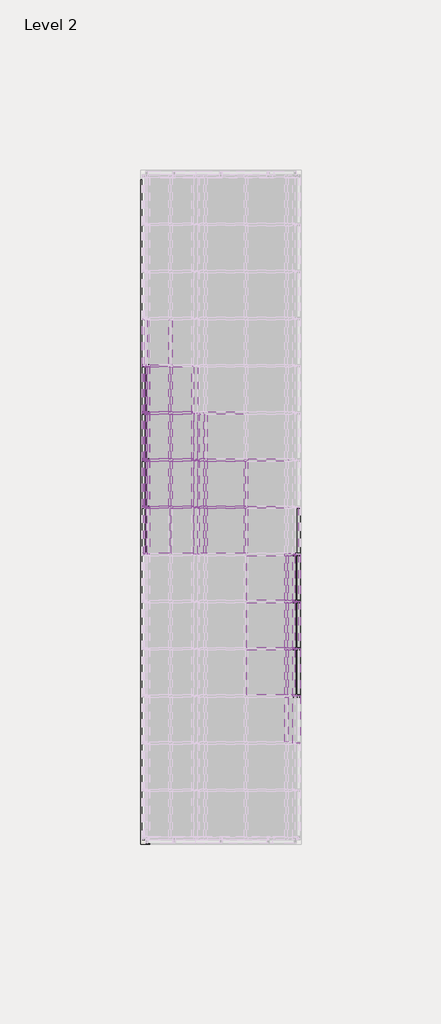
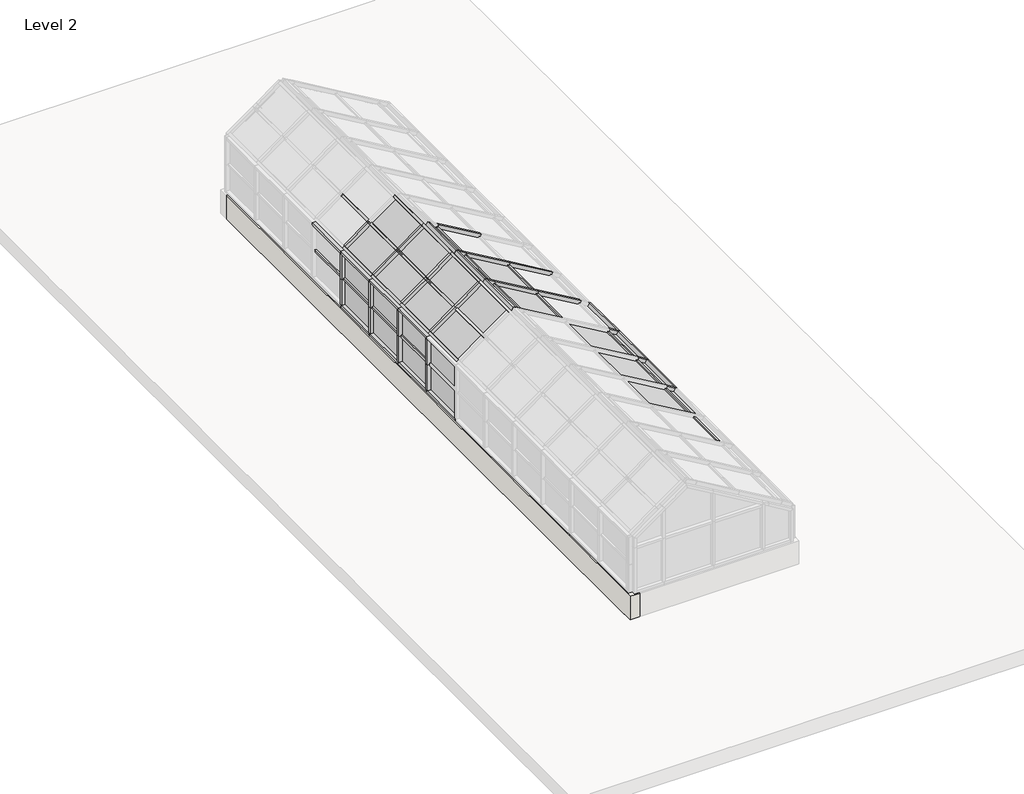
# One storey, part 3 of 5: 75 members, 30 plates, 1 wall.
"""IFC4 building model written with IfcOpenShell, lengths in millimetres."""

from ifc_helpers import new_model, si_unit, origin, place, context, project, spatial, faceted_brep, transform, mapped, element, save
from components import rectangular_mullion_50mm_x_150mm_bbc1c4ea, rectangular_mullion_50mm_x_150mm_eeb88b28, rectangular_mullion_50mm_x_150mm_a3f7cd42, rectangular_mullion_50mm_x_150mm_b93c35cb, rectangular_mullion_50mm_x_150mm_5b0837ce, rectangular_mullion_50mm_x_150mm_ae680e05, rectangular_mullion_50mm_x_65mm_31c1307f, system_panel_glazed_870feb4d, system_panel_glazed_ce9ce1f6, system_panel_glazed_b73f3a15, system_panel_glazed_e5572be6, system_panel_glazed_8ed7f146

model = new_model("IFC4")

# Units and contexts
model_context = context("Model", 3, world=origin())
ifc_project = project(units=[si_unit("LENGTHUNIT", "METRE", prefix="MILLI")], contexts=[model_context])

# Site, building, storey
site = spatial("IfcSite", under=ifc_project)
building = spatial("IfcBuilding", under=site)
storey = spatial("IfcBuildingStorey", under=building, Name="Level 2", Elevation=4000.0)

# Members
placement = place(None, origin())
rectangular_mullion_50mm_x_150mm_shape = rectangular_mullion_50mm_x_150mm_bbc1c4ea(model_context)
element("IfcMember", 1, ObjectType="Rectangular Mullion : 50mm x 150mm", at=placement, inside=storey, context=model_context, shape_type="MappedRepresentation", body=[
    mapped(rectangular_mullion_50mm_x_150mm_shape, transform((2564.0558626, 583.816466, 6633.2209294), x_axis=(0.0, -1.0, 0.0), y_axis=(0.5073040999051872, 0.0, 0.8617671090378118), z_axis=(-0.8617671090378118, 0.0, 0.5073040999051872))),
])
element("IfcMember", 2, ObjectType="Rectangular Mullion : 50mm x 150mm", at=placement, inside=storey, context=model_context, shape_type="MappedRepresentation", body=[
    mapped(rectangular_mullion_50mm_x_150mm_shape, transform((3425.8229716, 583.816466, 6125.9168295), x_axis=(0.0, -1.0, 0.0), y_axis=(0.507304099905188, 0.0, 0.8617671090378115), z_axis=(-0.8617671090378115, 0.0, 0.507304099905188))),
])
element("IfcMember", 3, ObjectType="Rectangular Mullion : 50mm x 150mm", at=placement, inside=storey, context=model_context, shape_type="MappedRepresentation", body=[
    mapped(rectangular_mullion_50mm_x_150mm_shape, transform((2564.0558626, 1583.816466, 6633.2209294), x_axis=(0.0, -1.0, 0.0), y_axis=(0.507304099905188, 0.0, 0.8617671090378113), z_axis=(-0.8617671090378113, 0.0, 0.507304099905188))),
])
element("IfcMember", 4, ObjectType="Rectangular Mullion : 50mm x 150mm", at=placement, inside=storey, context=model_context, shape_type="MappedRepresentation", body=[
    mapped(rectangular_mullion_50mm_x_150mm_shape, transform((3425.8229716, 1583.816466, 6125.9168295), x_axis=(0.0, -1.0, 0.0), y_axis=(0.5073040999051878, 0.0, 0.8617671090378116), z_axis=(-0.8617671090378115, 0.0, 0.5073040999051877))),
])
element("IfcMember", 5, ObjectType="Rectangular Mullion : 50mm x 150mm", at=placement, inside=storey, context=model_context, shape_type="MappedRepresentation", body=[
    mapped(rectangular_mullion_50mm_x_150mm_shape, transform((2564.0558626, 2583.816466, 6633.2209294), x_axis=(0.0, -1.0, 0.0), y_axis=(0.5073040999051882, 0.0, 0.8617671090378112), z_axis=(-0.8617671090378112, 0.0, 0.5073040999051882))),
])
rectangular_mullion_50mm_x_150mm_2_shape = rectangular_mullion_50mm_x_150mm_eeb88b28(model_context)
element("IfcMember", 6, ObjectType="Rectangular Mullion : 50mm x 150mm", at=placement, inside=storey, context=model_context, shape_type="MappedRepresentation", body=[
    mapped(rectangular_mullion_50mm_x_150mm_2_shape, transform((1296.0159363, 1583.816466, 5995.9168295), x_axis=(-0.8125956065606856, 0.0, -0.5828279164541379), y_axis=(-0.5828279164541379, 0.0, 0.8125956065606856), z_axis=(0.0, 1.0, 0.0))),
])
element("IfcMember", 7, ObjectType="Rectangular Mullion : 50mm x 150mm", at=placement, inside=storey, context=model_context, shape_type="MappedRepresentation", body=[
    mapped(rectangular_mullion_50mm_x_150mm_2_shape, transform((1296.0159363, 583.816466, 5995.9168295), x_axis=(-0.8125956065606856, 0.0, -0.5828279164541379), y_axis=(-0.5828279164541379, 0.0, 0.8125956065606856), z_axis=(0.0, 1.0, 0.0))),
])
element("IfcMember", 8, ObjectType="Rectangular Mullion : 50mm x 150mm", at=placement, inside=storey, context=model_context, shape_type="MappedRepresentation", body=[
    mapped(rectangular_mullion_50mm_x_150mm_2_shape, transform((1296.0159363, 3583.816466, 5995.9168295), x_axis=(-0.8125956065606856, 0.0, -0.5828279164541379), y_axis=(-0.5828279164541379, 0.0, 0.8125956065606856), z_axis=(0.0, 1.0, 0.0))),
])
element("IfcMember", 9, ObjectType="Rectangular Mullion : 50mm x 150mm", at=placement, inside=storey, context=model_context, shape_type="MappedRepresentation", body=[
    mapped(rectangular_mullion_50mm_x_150mm_2_shape, transform((1296.0159363, 2583.816466, 5995.9168295), x_axis=(-0.8125956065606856, 0.0, -0.5828279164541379), y_axis=(-0.5828279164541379, 0.0, 0.8125956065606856), z_axis=(0.0, 1.0, 0.0))),
])
element("IfcMember", 10, ObjectType="Rectangular Mullion : 50mm x 150mm", at=placement, inside=storey, context=model_context, shape_type="MappedRepresentation", body=[
    mapped(rectangular_mullion_50mm_x_150mm_2_shape, transform((1296.0159363, 2583.816466, 4800.0), x_axis=(0.0, 0.0, -1.0), y_axis=(-1.0, 0.0, 0.0), z_axis=(0.0, 1.0, 0.0))),
])
element("IfcMember", 11, ObjectType="Rectangular Mullion : 50mm x 150mm", at=placement, inside=storey, context=model_context, shape_type="MappedRepresentation", body=[
    mapped(rectangular_mullion_50mm_x_150mm_2_shape, transform((1296.0159363, 3583.816466, 4800.0), x_axis=(0.0, 0.0, -1.0), y_axis=(-1.0, 0.0, 0.0), z_axis=(0.0, 1.0, 0.0))),
])
element("IfcMember", 12, ObjectType="Rectangular Mullion : 50mm x 150mm", at=placement, inside=storey, context=model_context, shape_type="MappedRepresentation", body=[
    mapped(rectangular_mullion_50mm_x_150mm_2_shape, transform((1296.0159363, 583.816466, 4800.0), x_axis=(0.0, 0.0, -1.0), y_axis=(-1.0, 0.0, 0.0), z_axis=(0.0, 1.0, 0.0))),
])
element("IfcMember", 13, ObjectType="Rectangular Mullion : 50mm x 150mm", at=placement, inside=storey, context=model_context, shape_type="MappedRepresentation", body=[
    mapped(rectangular_mullion_50mm_x_150mm_2_shape, transform((1296.0159363, 1583.816466, 4800.0), x_axis=(0.0, 0.0, -1.0), y_axis=(-1.0, 0.0, 0.0), z_axis=(0.0, 1.0, 0.0))),
])
element("IfcMember", 14, ObjectType="Rectangular Mullion : 50mm x 150mm", at=placement, inside=storey, context=model_context, shape_type="MappedRepresentation", body=[
    mapped(rectangular_mullion_50mm_x_150mm_2_shape, transform((4496.0159363, -2416.183534, 5495.9168295), x_axis=(0.8617671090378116, 0.0, -0.5073040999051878), y_axis=(0.5073040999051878, 0.0, 0.8617671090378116), z_axis=(0.0, -1.0, 0.0))),
])
element("IfcMember", 15, ObjectType="Rectangular Mullion : 50mm x 150mm", at=placement, inside=storey, context=model_context, shape_type="MappedRepresentation", body=[
    mapped(rectangular_mullion_50mm_x_150mm_2_shape, transform((4496.0159363, -1416.183534, 5495.9168295), x_axis=(0.8617671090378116, 0.0, -0.5073040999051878), y_axis=(0.5073040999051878, 0.0, 0.8617671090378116), z_axis=(0.0, -1.0, 0.0))),
])
element("IfcMember", 16, ObjectType="Rectangular Mullion : 50mm x 150mm", at=placement, inside=storey, context=model_context, shape_type="MappedRepresentation", body=[
    mapped(rectangular_mullion_50mm_x_150mm_2_shape, transform((4496.0159363, -416.183534, 5495.9168295), x_axis=(0.8617671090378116, 0.0, -0.5073040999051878), y_axis=(0.5073040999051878, 0.0, 0.8617671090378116), z_axis=(0.0, -1.0, 0.0))),
])
element("IfcMember", 17, ObjectType="Rectangular Mullion : 50mm x 150mm", at=placement, inside=storey, context=model_context, shape_type="MappedRepresentation", body=[
    mapped(rectangular_mullion_50mm_x_150mm_2_shape, transform((4496.0159363, -2416.183534, 4800.0), x_axis=(0.0, 0.0, -1.0), y_axis=(1.0, 0.0, 0.0), z_axis=(0.0, -1.0, 0.0))),
])
element("IfcMember", 18, ObjectType="Rectangular Mullion : 50mm x 150mm", at=placement, inside=storey, context=model_context, shape_type="MappedRepresentation", body=[
    mapped(rectangular_mullion_50mm_x_150mm_2_shape, transform((4496.0159363, -3416.183534, 4800.0), x_axis=(0.0, 0.0, -1.0), y_axis=(1.0, 0.0, 0.0), z_axis=(0.0, -1.0, 0.0))),
])
element("IfcMember", 19, ObjectType="Rectangular Mullion : 50mm x 150mm", at=placement, inside=storey, context=model_context, shape_type="MappedRepresentation", body=[
    mapped(rectangular_mullion_50mm_x_150mm_2_shape, transform((4496.0159363, -1416.183534, 4800.0), x_axis=(0.0, 0.0, -1.0), y_axis=(1.0, 0.0, 0.0), z_axis=(0.0, -1.0, 0.0))),
])
element("IfcMember", 20, ObjectType="Rectangular Mullion : 50mm x 150mm", at=placement, inside=storey, context=model_context, shape_type="MappedRepresentation", body=[
    mapped(rectangular_mullion_50mm_x_150mm_2_shape, transform((4496.0159363, -416.183534, 4800.0), x_axis=(0.0, 0.0, -1.0), y_axis=(1.0, 0.0, 0.0), z_axis=(0.0, -1.0, 0.0))),
])
element("IfcMember", 21, ObjectType="Rectangular Mullion : 50mm x 150mm", at=placement, inside=storey, context=model_context, shape_type="MappedRepresentation", body=[
    mapped(rectangular_mullion_50mm_x_150mm_2_shape, transform((2355.6300069, 2583.816466, 6755.9168295), x_axis=(0.8125956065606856, 0.0, 0.5828279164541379), y_axis=(-0.5828279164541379, 0.0, 0.8125956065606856), z_axis=(0.0, -1.0, 0.0))),
])
element("IfcMember", 22, ObjectType="Rectangular Mullion : 50mm x 150mm", at=placement, inside=storey, context=model_context, shape_type="MappedRepresentation", body=[
    mapped(rectangular_mullion_50mm_x_150mm_2_shape, transform((2355.6300069, 1583.816466, 6755.9168295), x_axis=(0.8125956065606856, 0.0, 0.5828279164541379), y_axis=(-0.5828279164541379, 0.0, 0.8125956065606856), z_axis=(0.0, -1.0, 0.0))),
])
element("IfcMember", 23, ObjectType="Rectangular Mullion : 50mm x 150mm", at=placement, inside=storey, context=model_context, shape_type="MappedRepresentation", body=[
    mapped(rectangular_mullion_50mm_x_150mm_2_shape, transform((2355.6300069, 583.816466, 6755.9168295), x_axis=(0.8125956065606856, 0.0, 0.5828279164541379), y_axis=(-0.5828279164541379, 0.0, 0.8125956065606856), z_axis=(0.0, -1.0, 0.0))),
])
element("IfcMember", 24, ObjectType="Rectangular Mullion : 50mm x 150mm", at=placement, inside=storey, context=model_context, shape_type="MappedRepresentation", body=[
    mapped(rectangular_mullion_50mm_x_150mm_2_shape, transform((1296.0159363, 583.816466, 5995.9168295), x_axis=(0.0, 0.0, 1.0), y_axis=(-1.0, 0.0, 0.0), z_axis=(0.0, -1.0, 0.0))),
])
element("IfcMember", 25, ObjectType="Rectangular Mullion : 50mm x 150mm", at=placement, inside=storey, context=model_context, shape_type="MappedRepresentation", body=[
    mapped(rectangular_mullion_50mm_x_150mm_2_shape, transform((1296.0159363, 2583.816466, 5995.9168295), x_axis=(0.0, 0.0, 1.0), y_axis=(-1.0, 0.0, 0.0), z_axis=(0.0, -1.0, 0.0))),
])
element("IfcMember", 26, ObjectType="Rectangular Mullion : 50mm x 150mm", at=placement, inside=storey, context=model_context, shape_type="MappedRepresentation", body=[
    mapped(rectangular_mullion_50mm_x_150mm_2_shape, transform((1296.0159363, 1583.816466, 5995.9168295), x_axis=(0.0, 0.0, 1.0), y_axis=(-1.0, 0.0, 0.0), z_axis=(0.0, -1.0, 0.0))),
])
element("IfcMember", 27, ObjectType="Rectangular Mullion : 50mm x 150mm", at=placement, inside=storey, context=model_context, shape_type="MappedRepresentation", body=[
    mapped(rectangular_mullion_50mm_x_150mm_2_shape, transform((1296.0159363, 3583.816466, 5995.9168295), x_axis=(0.0, 0.0, 1.0), y_axis=(-1.0, 0.0, 0.0), z_axis=(0.0, -1.0, 0.0))),
])
element("IfcMember", 28, ObjectType="Rectangular Mullion : 50mm x 150mm", at=placement, inside=storey, context=model_context, shape_type="MappedRepresentation", body=[
    mapped(rectangular_mullion_50mm_x_150mm_2_shape, transform((2355.6300069, 2583.816466, 6755.9168295), x_axis=(-0.8617671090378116, 0.0, 0.5073040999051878), y_axis=(0.5073040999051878, 0.0, 0.8617671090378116), z_axis=(0.0, 1.0, 0.0))),
])
element("IfcMember", 29, ObjectType="Rectangular Mullion : 50mm x 150mm", at=placement, inside=storey, context=model_context, shape_type="MappedRepresentation", body=[
    mapped(rectangular_mullion_50mm_x_150mm_2_shape, transform((2355.6300069, 1583.816466, 6755.9168295), x_axis=(-0.8617671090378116, 0.0, 0.5073040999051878), y_axis=(0.5073040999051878, 0.0, 0.8617671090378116), z_axis=(0.0, 1.0, 0.0))),
])
element("IfcMember", 30, ObjectType="Rectangular Mullion : 50mm x 150mm", at=placement, inside=storey, context=model_context, shape_type="MappedRepresentation", body=[
    mapped(rectangular_mullion_50mm_x_150mm_2_shape, transform((2355.6300069, 583.816466, 6755.9168295), x_axis=(-0.8617671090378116, 0.0, 0.5073040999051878), y_axis=(0.5073040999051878, 0.0, 0.8617671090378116), z_axis=(0.0, 1.0, 0.0))),
])
element("IfcMember", 31, ObjectType="Rectangular Mullion : 50mm x 150mm", at=placement, inside=storey, context=model_context, shape_type="MappedRepresentation", body=[
    mapped(rectangular_mullion_50mm_x_150mm_2_shape, transform((4496.0159363, -416.183534, 5495.9168295), x_axis=(0.0, 0.0, 1.0), y_axis=(1.0, 0.0, 0.0), z_axis=(0.0, 1.0, 0.0))),
])
element("IfcMember", 32, ObjectType="Rectangular Mullion : 50mm x 150mm", at=placement, inside=storey, context=model_context, shape_type="MappedRepresentation", body=[
    mapped(rectangular_mullion_50mm_x_150mm_2_shape, transform((4496.0159363, -3416.183534, 5495.9168295), x_axis=(0.0, 0.0, 1.0), y_axis=(1.0, 0.0, 0.0), z_axis=(0.0, 1.0, 0.0))),
])
element("IfcMember", 33, ObjectType="Rectangular Mullion : 50mm x 150mm", at=placement, inside=storey, context=model_context, shape_type="MappedRepresentation", body=[
    mapped(rectangular_mullion_50mm_x_150mm_2_shape, transform((4496.0159363, -2416.183534, 5495.9168295), x_axis=(0.0, 0.0, 1.0), y_axis=(1.0, 0.0, 0.0), z_axis=(0.0, 1.0, 0.0))),
])
element("IfcMember", 34, ObjectType="Rectangular Mullion : 50mm x 150mm", at=placement, inside=storey, context=model_context, shape_type="MappedRepresentation", body=[
    mapped(rectangular_mullion_50mm_x_150mm_2_shape, transform((4496.0159363, -1416.183534, 5495.9168295), x_axis=(0.0, 0.0, 1.0), y_axis=(1.0, 0.0, 0.0), z_axis=(0.0, 1.0, 0.0))),
])
rectangular_mullion_50mm_x_150mm_3_shape = rectangular_mullion_50mm_x_150mm_a3f7cd42(model_context)
element("IfcMember", 35, ObjectType="Rectangular Mullion : 50mm x 150mm", at=placement, inside=storey, context=model_context, shape_type="MappedRepresentation", body=[
    mapped(rectangular_mullion_50mm_x_150mm_3_shape, transform((2315.0002265, 2583.816466, 6726.7754337), x_axis=(0.0, 1.0, 0.0), y_axis=(-0.5828279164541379, 0.0, 0.8125956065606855), z_axis=(0.8125956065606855, 0.0, 0.5828279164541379))),
])
element("IfcMember", 36, ObjectType="Rectangular Mullion : 50mm x 150mm", at=placement, inside=storey, context=model_context, shape_type="MappedRepresentation", body=[
    mapped(rectangular_mullion_50mm_x_150mm_3_shape, transform((2315.0002265, 1583.816466, 6726.7754337), x_axis=(0.0, 1.0, 0.0), y_axis=(-0.582827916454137, 0.0, 0.8125956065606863), z_axis=(0.8125956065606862, 0.0, 0.5828279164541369))),
])
element("IfcMember", 37, ObjectType="Rectangular Mullion : 50mm x 150mm", at=placement, inside=storey, context=model_context, shape_type="MappedRepresentation", body=[
    mapped(rectangular_mullion_50mm_x_150mm_3_shape, transform((2315.0002265, 583.816466, 6726.7754337), x_axis=(0.0, 1.0, 0.0), y_axis=(-0.5828279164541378, 0.0, 0.8125956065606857), z_axis=(0.8125956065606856, 0.0, 0.5828279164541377))),
])
element("IfcMember", 38, ObjectType="Rectangular Mullion : 50mm x 150mm", at=placement, inside=storey, context=model_context, shape_type="MappedRepresentation", body=[
    mapped(rectangular_mullion_50mm_x_150mm_3_shape, transform((1825.8229716, 3583.816466, 6375.9168295), x_axis=(0.0, 1.0, 0.0), y_axis=(-0.5828279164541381, 0.0, 0.8125956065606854), z_axis=(0.8125956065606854, 0.0, 0.5828279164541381))),
])
element("IfcMember", 39, ObjectType="Rectangular Mullion : 50mm x 150mm", at=placement, inside=storey, context=model_context, shape_type="MappedRepresentation", body=[
    mapped(rectangular_mullion_50mm_x_150mm_3_shape, transform((1825.8229716, 2583.816466, 6375.9168295), x_axis=(0.0, 1.0, 0.0), y_axis=(-0.582827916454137, 0.0, 0.8125956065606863), z_axis=(0.8125956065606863, 0.0, 0.582827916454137))),
])
element("IfcMember", 40, ObjectType="Rectangular Mullion : 50mm x 150mm", at=placement, inside=storey, context=model_context, shape_type="MappedRepresentation", body=[
    mapped(rectangular_mullion_50mm_x_150mm_3_shape, transform((1825.8229716, 1583.816466, 6375.9168295), x_axis=(0.0, 1.0, 0.0), y_axis=(-0.5828279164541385, 0.0, 0.8125956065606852), z_axis=(0.8125956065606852, 0.0, 0.5828279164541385))),
])
element("IfcMember", 41, ObjectType="Rectangular Mullion : 50mm x 150mm", at=placement, inside=storey, context=model_context, shape_type="MappedRepresentation", body=[
    mapped(rectangular_mullion_50mm_x_150mm_3_shape, transform((1825.8229716, 583.816466, 6375.9168295), x_axis=(0.0, 1.0, 0.0), y_axis=(-0.5828279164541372, 0.0, 0.8125956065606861), z_axis=(0.8125956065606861, 0.0, 0.5828279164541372))),
])
rectangular_mullion_50mm_x_150mm_4_shape = rectangular_mullion_50mm_x_150mm_b93c35cb(model_context)
element("IfcMember", 42, ObjectType="Rectangular Mullion : 50mm x 150mm", at=placement, inside=storey, context=model_context, shape_type="MappedRepresentation", body=[
    mapped(rectangular_mullion_50mm_x_150mm_4_shape, transform((1296.0159363, 3583.816466, 5397.9584148), x_axis=(0.0, 1.0, 0.0), y_axis=(-1.0, 0.0, 0.0), z_axis=(0.0, 0.0, 1.0))),
])
element("IfcMember", 43, ObjectType="Rectangular Mullion : 50mm x 150mm", at=placement, inside=storey, context=model_context, shape_type="MappedRepresentation", body=[
    mapped(rectangular_mullion_50mm_x_150mm_4_shape, transform((1296.0159363, 2583.816466, 5397.9584148), x_axis=(0.0, 1.0, 0.0), y_axis=(-1.0, 0.0, 0.0), z_axis=(0.0, 0.0, 1.0))),
])
element("IfcMember", 44, ObjectType="Rectangular Mullion : 50mm x 150mm", at=placement, inside=storey, context=model_context, shape_type="MappedRepresentation", body=[
    mapped(rectangular_mullion_50mm_x_150mm_4_shape, transform((1296.0159363, 1583.816466, 5397.9584148), x_axis=(0.0, 1.0, 0.0), y_axis=(-1.0, 0.0, 0.0), z_axis=(0.0, 0.0, 1.0))),
])
element("IfcMember", 45, ObjectType="Rectangular Mullion : 50mm x 150mm", at=placement, inside=storey, context=model_context, shape_type="MappedRepresentation", body=[
    mapped(rectangular_mullion_50mm_x_150mm_4_shape, transform((1296.0159363, 583.816466, 5397.9584148), x_axis=(0.0, 1.0, 0.0), y_axis=(-1.0, 0.0, 0.0), z_axis=(0.0, 0.0, 1.0))),
])
element("IfcMember", 46, ObjectType="Rectangular Mullion : 50mm x 150mm", at=placement, inside=storey, context=model_context, shape_type="MappedRepresentation", body=[
    mapped(rectangular_mullion_50mm_x_150mm_4_shape, transform((1296.0159363, 2583.816466, 5945.9168295), x_axis=(0.0, 1.0, 0.0), y_axis=(-1.0, 0.0, 0.0), z_axis=(0.0, 0.0, 1.0))),
])
element("IfcMember", 47, ObjectType="Rectangular Mullion : 50mm x 150mm", at=placement, inside=storey, context=model_context, shape_type="MappedRepresentation", body=[
    mapped(rectangular_mullion_50mm_x_150mm_4_shape, transform((1296.0159363, 1583.816466, 5945.9168295), x_axis=(0.0, 1.0, 0.0), y_axis=(-1.0, 0.0, 0.0), z_axis=(0.0, 0.0, 1.0))),
])
element("IfcMember", 48, ObjectType="Rectangular Mullion : 50mm x 150mm", at=placement, inside=storey, context=model_context, shape_type="MappedRepresentation", body=[
    mapped(rectangular_mullion_50mm_x_150mm_4_shape, transform((1296.0159363, 583.816466, 5945.9168295), x_axis=(0.0, 1.0, 0.0), y_axis=(-1.0, 0.0, 0.0), z_axis=(0.0, 0.0, 1.0))),
])
element("IfcMember", 49, ObjectType="Rectangular Mullion : 50mm x 150mm", at=placement, inside=storey, context=model_context, shape_type="MappedRepresentation", body=[
    mapped(rectangular_mullion_50mm_x_150mm_4_shape, transform((1296.0159363, 3583.816466, 5945.9168295), x_axis=(0.0, 1.0, 0.0), y_axis=(-1.0, 0.0, 0.0), z_axis=(0.0, 0.0, 1.0))),
])
rectangular_mullion_50mm_x_150mm_5_shape = rectangular_mullion_50mm_x_150mm_5b0837ce(model_context)
element("IfcMember", 50, ObjectType="Rectangular Mullion : 50mm x 150mm", at=placement, inside=storey, context=model_context, shape_type="MappedRepresentation", body=[
    mapped(rectangular_mullion_50mm_x_150mm_5_shape, transform((2398.7183623, 583.816466, 6730.5516245), x_axis=(0.0, -1.0, 0.0), y_axis=(0.5073040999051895, 0.0, 0.8617671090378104), z_axis=(-0.8617671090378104, 0.0, 0.5073040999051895))),
])
element("IfcMember", 51, ObjectType="Rectangular Mullion : 50mm x 150mm", at=placement, inside=storey, context=model_context, shape_type="MappedRepresentation", body=[
    mapped(rectangular_mullion_50mm_x_150mm_5_shape, transform((2398.7183623, 1583.816466, 6730.5516245), x_axis=(0.0, -1.0, 0.0), y_axis=(0.5073040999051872, 0.0, 0.8617671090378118), z_axis=(-0.8617671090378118, 0.0, 0.5073040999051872))),
])
element("IfcMember", 52, ObjectType="Rectangular Mullion : 50mm x 150mm", at=placement, inside=storey, context=model_context, shape_type="MappedRepresentation", body=[
    mapped(rectangular_mullion_50mm_x_150mm_5_shape, transform((4287.5900806, -2416.183534, 5618.6127296), x_axis=(0.0, -1.0, 0.0), y_axis=(0.5073040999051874, 0.0, 0.8617671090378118), z_axis=(-0.8617671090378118, 0.0, 0.5073040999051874))),
])
element("IfcMember", 53, ObjectType="Rectangular Mullion : 50mm x 150mm", at=placement, inside=storey, context=model_context, shape_type="MappedRepresentation", body=[
    mapped(rectangular_mullion_50mm_x_150mm_5_shape, transform((4287.5900806, -1416.183534, 5618.6127296), x_axis=(0.0, -1.0, 0.0), y_axis=(0.5073040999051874, 0.0, 0.8617671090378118), z_axis=(-0.8617671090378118, 0.0, 0.5073040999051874))),
])
element("IfcMember", 54, ObjectType="Rectangular Mullion : 50mm x 150mm", at=placement, inside=storey, context=model_context, shape_type="MappedRepresentation", body=[
    mapped(rectangular_mullion_50mm_x_150mm_5_shape, transform((4287.5900806, -416.183534, 5618.6127296), x_axis=(0.0, -1.0, 0.0), y_axis=(0.5073040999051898, 0.0, 0.8617671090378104), z_axis=(-0.8617671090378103, 0.0, 0.5073040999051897))),
])
rectangular_mullion_50mm_x_150mm_6_shape = rectangular_mullion_50mm_x_150mm_ae680e05(model_context)
element("IfcMember", 55, ObjectType="Rectangular Mullion : 50mm x 150mm", at=placement, inside=storey, context=model_context, shape_type="MappedRepresentation", body=[
    mapped(rectangular_mullion_50mm_x_150mm_6_shape, transform((4496.0159363, -3416.183534, 5445.9168295), x_axis=(0.0, -1.0, 0.0), y_axis=(1.0, 0.0, 0.0), z_axis=(0.0, 0.0, 1.0))),
])
element("IfcMember", 56, ObjectType="Rectangular Mullion : 50mm x 150mm", at=placement, inside=storey, context=model_context, shape_type="MappedRepresentation", body=[
    mapped(rectangular_mullion_50mm_x_150mm_6_shape, transform((4496.0159363, -2416.183534, 5445.9168295), x_axis=(0.0, -1.0, 0.0), y_axis=(1.0, 0.0, 0.0), z_axis=(0.0, 0.0, 1.0))),
])
element("IfcMember", 57, ObjectType="Rectangular Mullion : 50mm x 150mm", at=placement, inside=storey, context=model_context, shape_type="MappedRepresentation", body=[
    mapped(rectangular_mullion_50mm_x_150mm_6_shape, transform((4496.0159363, -1416.183534, 5445.9168295), x_axis=(0.0, -1.0, 0.0), y_axis=(1.0, 0.0, 0.0), z_axis=(0.0, 0.0, 1.0))),
])
element("IfcMember", 58, ObjectType="Rectangular Mullion : 50mm x 150mm", at=placement, inside=storey, context=model_context, shape_type="MappedRepresentation", body=[
    mapped(rectangular_mullion_50mm_x_150mm_6_shape, transform((4496.0159363, -416.183534, 5445.9168295), x_axis=(0.0, -1.0, 0.0), y_axis=(1.0, 0.0, 0.0), z_axis=(0.0, 0.0, 1.0))),
])
rectangular_mullion_50mm_x_65mm_shape = rectangular_mullion_50mm_x_65mm_31c1307f(model_context)
element("IfcMember", 59, ObjectType="Rectangular Mullion : 50mm x 65mm", at=placement, inside=storey, context=model_context, shape_type="MappedRepresentation", body=[
    mapped(rectangular_mullion_50mm_x_65mm_shape, transform((1825.8229716, 608.816466, 6375.9168295), x_axis=(0.8125956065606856, 0.0, 0.5828279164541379), y_axis=(-0.5828279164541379, 0.0, 0.8125956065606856), z_axis=(0.0, -1.0, 0.0))),
])
element("IfcMember", 60, ObjectType="Rectangular Mullion : 50mm x 65mm", at=placement, inside=storey, context=model_context, shape_type="MappedRepresentation", body=[
    mapped(rectangular_mullion_50mm_x_65mm_shape, transform((1825.8229716, 1608.816466, 6375.9168295), x_axis=(0.8125956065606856, 0.0, 0.5828279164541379), y_axis=(-0.5828279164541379, 0.0, 0.8125956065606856), z_axis=(0.0, -1.0, 0.0))),
])
element("IfcMember", 61, ObjectType="Rectangular Mullion : 50mm x 65mm", at=placement, inside=storey, context=model_context, shape_type="MappedRepresentation", body=[
    mapped(rectangular_mullion_50mm_x_65mm_shape, transform((1825.8229716, 2608.816466, 6375.9168295), x_axis=(0.8125956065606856, 0.0, 0.5828279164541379), y_axis=(-0.5828279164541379, 0.0, 0.8125956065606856), z_axis=(0.0, -1.0, 0.0))),
])
element("IfcMember", 62, ObjectType="Rectangular Mullion : 50mm x 65mm", at=placement, inside=storey, context=model_context, shape_type="MappedRepresentation", body=[
    mapped(rectangular_mullion_50mm_x_65mm_shape, transform((1825.8229716, 3608.816466, 6375.9168295), x_axis=(0.8125956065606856, 0.0, 0.5828279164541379), y_axis=(-0.5828279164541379, 0.0, 0.8125956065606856), z_axis=(0.0, -1.0, 0.0))),
])
element("IfcMember", 63, ObjectType="Rectangular Mullion : 50mm x 65mm", at=placement, inside=storey, context=model_context, shape_type="MappedRepresentation", body=[
    mapped(rectangular_mullion_50mm_x_65mm_shape, transform((1296.0159363, 1608.816466, 5397.9584148), x_axis=(0.0, 0.0, 1.0), y_axis=(-1.0, 0.0, 0.0), z_axis=(0.0, -1.0, 0.0))),
])
element("IfcMember", 64, ObjectType="Rectangular Mullion : 50mm x 65mm", at=placement, inside=storey, context=model_context, shape_type="MappedRepresentation", body=[
    mapped(rectangular_mullion_50mm_x_65mm_shape, transform((1296.0159363, 3608.816466, 5397.9584148), x_axis=(0.0, 0.0, 1.0), y_axis=(-1.0, 0.0, 0.0), z_axis=(0.0, -1.0, 0.0))),
])
element("IfcMember", 65, ObjectType="Rectangular Mullion : 50mm x 65mm", at=placement, inside=storey, context=model_context, shape_type="MappedRepresentation", body=[
    mapped(rectangular_mullion_50mm_x_65mm_shape, transform((1296.0159363, 2608.816466, 5397.9584148), x_axis=(0.0, 0.0, 1.0), y_axis=(-1.0, 0.0, 0.0), z_axis=(0.0, -1.0, 0.0))),
])
element("IfcMember", 66, ObjectType="Rectangular Mullion : 50mm x 65mm", at=placement, inside=storey, context=model_context, shape_type="MappedRepresentation", body=[
    mapped(rectangular_mullion_50mm_x_65mm_shape, transform((1296.0159363, 608.816466, 5397.9584148), x_axis=(0.0, 0.0, 1.0), y_axis=(-1.0, 0.0, 0.0), z_axis=(0.0, -1.0, 0.0))),
])
element("IfcMember", 67, ObjectType="Rectangular Mullion : 50mm x 65mm", at=placement, inside=storey, context=model_context, shape_type="MappedRepresentation", body=[
    mapped(rectangular_mullion_50mm_x_65mm_shape, transform((3425.8229716, 558.816466, 6125.9168295), x_axis=(-0.8617671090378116, 0.0, 0.5073040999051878), y_axis=(0.5073040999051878, 0.0, 0.8617671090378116), z_axis=(0.0, 1.0, 0.0))),
])
element("IfcMember", 68, ObjectType="Rectangular Mullion : 50mm x 65mm", at=placement, inside=storey, context=model_context, shape_type="MappedRepresentation", body=[
    mapped(rectangular_mullion_50mm_x_65mm_shape, transform((3425.8229716, 1558.816466, 6125.9168295), x_axis=(-0.8617671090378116, 0.0, 0.5073040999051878), y_axis=(0.5073040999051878, 0.0, 0.8617671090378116), z_axis=(0.0, 1.0, 0.0))),
])
element("IfcMember", 69, ObjectType="Rectangular Mullion : 50mm x 65mm", at=placement, inside=storey, context=model_context, shape_type="MappedRepresentation", body=[
    mapped(rectangular_mullion_50mm_x_65mm_shape, transform((2564.0558626, 2558.816466, 6633.2209294), x_axis=(-0.8617671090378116, 0.0, 0.5073040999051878), y_axis=(0.5073040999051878, 0.0, 0.8617671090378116), z_axis=(0.0, 1.0, 0.0))),
])
element("IfcMember", 70, ObjectType="Rectangular Mullion : 50mm x 65mm", at=placement, inside=storey, context=model_context, shape_type="MappedRepresentation", body=[
    mapped(rectangular_mullion_50mm_x_65mm_shape, transform((2564.0558626, 1558.816466, 6633.2209294), x_axis=(-0.8617671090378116, 0.0, 0.5073040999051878), y_axis=(0.5073040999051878, 0.0, 0.8617671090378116), z_axis=(0.0, 1.0, 0.0))),
])
element("IfcMember", 71, ObjectType="Rectangular Mullion : 50mm x 65mm", at=placement, inside=storey, context=model_context, shape_type="MappedRepresentation", body=[
    mapped(rectangular_mullion_50mm_x_65mm_shape, transform((2564.0558626, 558.816466, 6633.2209294), x_axis=(-0.8617671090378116, 0.0, 0.5073040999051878), y_axis=(0.5073040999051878, 0.0, 0.8617671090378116), z_axis=(0.0, 1.0, 0.0))),
])
element("IfcMember", 72, ObjectType="Rectangular Mullion : 50mm x 65mm", at=placement, inside=storey, context=model_context, shape_type="MappedRepresentation", body=[
    mapped(rectangular_mullion_50mm_x_65mm_shape, transform((4287.5900806, -3441.183534, 5618.6127296), x_axis=(-0.8617671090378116, 0.0, 0.5073040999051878), y_axis=(0.5073040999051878, 0.0, 0.8617671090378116), z_axis=(0.0, 1.0, 0.0))),
])
element("IfcMember", 73, ObjectType="Rectangular Mullion : 50mm x 65mm", at=placement, inside=storey, context=model_context, shape_type="MappedRepresentation", body=[
    mapped(rectangular_mullion_50mm_x_65mm_shape, transform((4287.5900806, -2441.183534, 5618.6127296), x_axis=(-0.8617671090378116, 0.0, 0.5073040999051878), y_axis=(0.5073040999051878, 0.0, 0.8617671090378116), z_axis=(0.0, 1.0, 0.0))),
])
element("IfcMember", 74, ObjectType="Rectangular Mullion : 50mm x 65mm", at=placement, inside=storey, context=model_context, shape_type="MappedRepresentation", body=[
    mapped(rectangular_mullion_50mm_x_65mm_shape, transform((4287.5900806, -1441.183534, 5618.6127296), x_axis=(-0.8617671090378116, 0.0, 0.5073040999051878), y_axis=(0.5073040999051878, 0.0, 0.8617671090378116), z_axis=(0.0, 1.0, 0.0))),
])
element("IfcMember", 75, ObjectType="Rectangular Mullion : 50mm x 65mm", at=placement, inside=storey, context=model_context, shape_type="MappedRepresentation", body=[
    mapped(rectangular_mullion_50mm_x_65mm_shape, transform((4287.5900806, -441.183534, 5618.6127296), x_axis=(-0.8617671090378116, 0.0, 0.5073040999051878), y_axis=(0.5073040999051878, 0.0, 0.8617671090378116), z_axis=(0.0, 1.0, 0.0))),
])

# Plates
system_panel_glazed_shape = system_panel_glazed_870feb4d(model_context)
element("IfcPlate", 76, ObjectType="System Panel : Glazed", at=placement, inside=storey, context=model_context, shape_type="MappedRepresentation", body=[
    mapped(system_panel_glazed_shape, transform((1336.6457166, 1083.816466, 6025.0582253), x_axis=(0.0, 1.0, 0.0), y_axis=(-0.5828279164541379, 0.0, 0.8125956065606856), z_axis=(0.8125956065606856, 0.0, 0.5828279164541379))),
])
element("IfcPlate", 77, ObjectType="System Panel : Glazed", at=placement, inside=storey, context=model_context, shape_type="MappedRepresentation", body=[
    mapped(system_panel_glazed_shape, transform((1336.6457166, 83.816466, 6025.0582253), x_axis=(0.0, 1.0, 0.0), y_axis=(-0.5828279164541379, 0.0, 0.8125956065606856), z_axis=(0.8125956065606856, 0.0, 0.5828279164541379))),
])
element("IfcPlate", 78, ObjectType="System Panel : Glazed", at=placement, inside=storey, context=model_context, shape_type="MappedRepresentation", body=[
    mapped(system_panel_glazed_shape, transform((1336.6457166, 2083.816466, 6025.0582253), x_axis=(0.0, 1.0, 0.0), y_axis=(-0.5828279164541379, 0.0, 0.8125956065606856), z_axis=(0.8125956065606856, 0.0, 0.5828279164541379))),
])
element("IfcPlate", 79, ObjectType="System Panel : Glazed", at=placement, inside=storey, context=model_context, shape_type="MappedRepresentation", body=[
    mapped(system_panel_glazed_shape, transform((1336.6457166, 3083.816466, 6025.0582253), x_axis=(0.0, 1.0, 0.0), y_axis=(-0.5828279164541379, 0.0, 0.8125956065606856), z_axis=(0.8125956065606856, 0.0, 0.5828279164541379))),
])
element("IfcPlate", 80, ObjectType="System Panel : Glazed", at=placement, inside=storey, context=model_context, shape_type="MappedRepresentation", body=[
    mapped(system_panel_glazed_shape, transform((1846.1378618, 83.816466, 6390.4875274), x_axis=(0.0, 1.0, 0.0), y_axis=(-0.5828279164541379, 0.0, 0.8125956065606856), z_axis=(0.8125956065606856, 0.0, 0.5828279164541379))),
])
element("IfcPlate", 81, ObjectType="System Panel : Glazed", at=placement, inside=storey, context=model_context, shape_type="MappedRepresentation", body=[
    mapped(system_panel_glazed_shape, transform((1846.1378618, 1083.816466, 6390.4875274), x_axis=(0.0, 1.0, 0.0), y_axis=(-0.5828279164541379, 0.0, 0.8125956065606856), z_axis=(0.8125956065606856, 0.0, 0.5828279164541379))),
])
element("IfcPlate", 82, ObjectType="System Panel : Glazed", at=placement, inside=storey, context=model_context, shape_type="MappedRepresentation", body=[
    mapped(system_panel_glazed_shape, transform((1846.1378618, 2083.816466, 6390.4875274), x_axis=(0.0, 1.0, 0.0), y_axis=(-0.5828279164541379, 0.0, 0.8125956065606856), z_axis=(0.8125956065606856, 0.0, 0.5828279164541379))),
])
element("IfcPlate", 83, ObjectType="System Panel : Glazed", at=placement, inside=storey, context=model_context, shape_type="MappedRepresentation", body=[
    mapped(system_panel_glazed_shape, transform((1846.1378618, 3083.816466, 6390.4875274), x_axis=(0.0, 1.0, 0.0), y_axis=(-0.5828279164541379, 0.0, 0.8125956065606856), z_axis=(0.8125956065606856, 0.0, 0.5828279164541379))),
])
system_panel_glazed_2_shape = system_panel_glazed_ce9ce1f6(model_context)
element("IfcPlate", 84, ObjectType="System Panel : Glazed", at=placement, inside=storey, context=model_context, shape_type="MappedRepresentation", body=[
    mapped(system_panel_glazed_2_shape, transform((1296.0159363, 1083.816466, 4850.0), x_axis=(0.0, 1.0, 0.0), y_axis=(-1.0, 0.0, 0.0), z_axis=(0.0, 0.0, 1.0))),
])
element("IfcPlate", 85, ObjectType="System Panel : Glazed", at=placement, inside=storey, context=model_context, shape_type="MappedRepresentation", body=[
    mapped(system_panel_glazed_2_shape, transform((1296.0159363, 83.816466, 4850.0), x_axis=(0.0, 1.0, 0.0), y_axis=(-1.0, 0.0, 0.0), z_axis=(0.0, 0.0, 1.0))),
])
element("IfcPlate", 86, ObjectType="System Panel : Glazed", at=placement, inside=storey, context=model_context, shape_type="MappedRepresentation", body=[
    mapped(system_panel_glazed_2_shape, transform((1296.0159363, 2083.816466, 4850.0), x_axis=(0.0, 1.0, 0.0), y_axis=(-1.0, 0.0, 0.0), z_axis=(0.0, 0.0, 1.0))),
])
element("IfcPlate", 87, ObjectType="System Panel : Glazed", at=placement, inside=storey, context=model_context, shape_type="MappedRepresentation", body=[
    mapped(system_panel_glazed_2_shape, transform((1296.0159363, 3083.816466, 4850.0), x_axis=(0.0, 1.0, 0.0), y_axis=(-1.0, 0.0, 0.0), z_axis=(0.0, 0.0, 1.0))),
])
element("IfcPlate", 88, ObjectType="System Panel : Glazed", at=placement, inside=storey, context=model_context, shape_type="MappedRepresentation", body=[
    mapped(system_panel_glazed_2_shape, transform((1296.0159363, 83.816466, 5422.9584148), x_axis=(0.0, 1.0, 0.0), y_axis=(-1.0, 0.0, 0.0), z_axis=(0.0, 0.0, 1.0))),
])
element("IfcPlate", 89, ObjectType="System Panel : Glazed", at=placement, inside=storey, context=model_context, shape_type="MappedRepresentation", body=[
    mapped(system_panel_glazed_2_shape, transform((1296.0159363, 1083.816466, 5422.9584148), x_axis=(0.0, 1.0, 0.0), y_axis=(-1.0, 0.0, 0.0), z_axis=(0.0, 0.0, 1.0))),
])
element("IfcPlate", 90, ObjectType="System Panel : Glazed", at=placement, inside=storey, context=model_context, shape_type="MappedRepresentation", body=[
    mapped(system_panel_glazed_2_shape, transform((1296.0159363, 2083.816466, 5422.9584148), x_axis=(0.0, 1.0, 0.0), y_axis=(-1.0, 0.0, 0.0), z_axis=(0.0, 0.0, 1.0))),
])
element("IfcPlate", 91, ObjectType="System Panel : Glazed", at=placement, inside=storey, context=model_context, shape_type="MappedRepresentation", body=[
    mapped(system_panel_glazed_2_shape, transform((1296.0159363, 3083.816466, 5422.9584148), x_axis=(0.0, 1.0, 0.0), y_axis=(-1.0, 0.0, 0.0), z_axis=(0.0, 0.0, 1.0))),
])
system_panel_glazed_3_shape = system_panel_glazed_b73f3a15(model_context)
element("IfcPlate", 92, ObjectType="System Panel : Glazed", at=placement, inside=storey, context=model_context, shape_type="MappedRepresentation", body=[
    mapped(system_panel_glazed_3_shape, transform((4452.9275809, -916.183534, 5521.2820345), x_axis=(0.0, -1.0, 0.0), y_axis=(0.5073040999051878, 0.0, 0.8617671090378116), z_axis=(-0.8617671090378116, 0.0, 0.5073040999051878))),
])
element("IfcPlate", 93, ObjectType="System Panel : Glazed", at=placement, inside=storey, context=model_context, shape_type="MappedRepresentation", body=[
    mapped(system_panel_glazed_3_shape, transform((4452.9275809, -1916.183534, 5521.2820345), x_axis=(0.0, -1.0, 0.0), y_axis=(0.5073040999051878, 0.0, 0.8617671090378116), z_axis=(-0.8617671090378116, 0.0, 0.5073040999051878))),
])
element("IfcPlate", 94, ObjectType="System Panel : Glazed", at=placement, inside=storey, context=model_context, shape_type="MappedRepresentation", body=[
    mapped(system_panel_glazed_3_shape, transform((4452.9275809, -2916.183534, 5521.2820345), x_axis=(0.0, -1.0, 0.0), y_axis=(0.5073040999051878, 0.0, 0.8617671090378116), z_axis=(-0.8617671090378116, 0.0, 0.5073040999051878))),
])
element("IfcPlate", 95, ObjectType="System Panel : Glazed", at=placement, inside=storey, context=model_context, shape_type="MappedRepresentation", body=[
    mapped(system_panel_glazed_3_shape, transform((2542.5116848, 2083.816466, 6645.9035319), x_axis=(0.0, -1.0, 0.0), y_axis=(0.5073040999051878, 0.0, 0.8617671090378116), z_axis=(-0.8617671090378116, 0.0, 0.5073040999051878))),
])
element("IfcPlate", 96, ObjectType="System Panel : Glazed", at=placement, inside=storey, context=model_context, shape_type="MappedRepresentation", body=[
    mapped(system_panel_glazed_3_shape, transform((2542.5116848, 1083.816466, 6645.9035319), x_axis=(0.0, -1.0, 0.0), y_axis=(0.5073040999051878, 0.0, 0.8617671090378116), z_axis=(-0.8617671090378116, 0.0, 0.5073040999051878))),
])
element("IfcPlate", 97, ObjectType="System Panel : Glazed", at=placement, inside=storey, context=model_context, shape_type="MappedRepresentation", body=[
    mapped(system_panel_glazed_3_shape, transform((2542.5116848, 83.816466, 6645.9035319), x_axis=(0.0, -1.0, 0.0), y_axis=(0.5073040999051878, 0.0, 0.8617671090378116), z_axis=(-0.8617671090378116, 0.0, 0.5073040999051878))),
])
system_panel_glazed_4_shape = system_panel_glazed_e5572be6(model_context)
element("IfcPlate", 98, ObjectType="System Panel : Glazed", at=placement, inside=storey, context=model_context, shape_type="MappedRepresentation", body=[
    mapped(system_panel_glazed_4_shape, transform((3404.2787939, 1083.816466, 6138.599432), x_axis=(0.0, -1.0, 0.0), y_axis=(0.5073040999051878, 0.0, 0.8617671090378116), z_axis=(-0.8617671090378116, 0.0, 0.5073040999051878))),
])
element("IfcPlate", 99, ObjectType="System Panel : Glazed", at=placement, inside=storey, context=model_context, shape_type="MappedRepresentation", body=[
    mapped(system_panel_glazed_4_shape, transform((3404.2787939, 83.816466, 6138.599432), x_axis=(0.0, -1.0, 0.0), y_axis=(0.5073040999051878, 0.0, 0.8617671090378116), z_axis=(-0.8617671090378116, 0.0, 0.5073040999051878))),
])
element("IfcPlate", 100, ObjectType="System Panel : Glazed", at=placement, inside=storey, context=model_context, shape_type="MappedRepresentation", body=[
    mapped(system_panel_glazed_4_shape, transform((4266.0459029, -916.183534, 5631.2953321), x_axis=(0.0, -1.0, 0.0), y_axis=(0.5073040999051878, 0.0, 0.8617671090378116), z_axis=(-0.8617671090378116, 0.0, 0.5073040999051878))),
])
element("IfcPlate", 101, ObjectType="System Panel : Glazed", at=placement, inside=storey, context=model_context, shape_type="MappedRepresentation", body=[
    mapped(system_panel_glazed_4_shape, transform((4266.0459029, -1916.183534, 5631.2953321), x_axis=(0.0, -1.0, 0.0), y_axis=(0.5073040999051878, 0.0, 0.8617671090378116), z_axis=(-0.8617671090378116, 0.0, 0.5073040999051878))),
])
element("IfcPlate", 102, ObjectType="System Panel : Glazed", at=placement, inside=storey, context=model_context, shape_type="MappedRepresentation", body=[
    mapped(system_panel_glazed_4_shape, transform((4266.0459029, -2916.183534, 5631.2953321), x_axis=(0.0, -1.0, 0.0), y_axis=(0.5073040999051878, 0.0, 0.8617671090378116), z_axis=(-0.8617671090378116, 0.0, 0.5073040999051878))),
])
system_panel_glazed_5_shape = system_panel_glazed_8ed7f146(model_context)
element("IfcPlate", 103, ObjectType="System Panel : Glazed", at=placement, inside=storey, context=model_context, shape_type="MappedRepresentation", body=[
    mapped(system_panel_glazed_5_shape, transform((4496.0159363, -916.183534, 4850.0), x_axis=(0.0, -1.0, 0.0), y_axis=(1.0, 0.0, 0.0), z_axis=(0.0, 0.0, 1.0))),
])
element("IfcPlate", 104, ObjectType="System Panel : Glazed", at=placement, inside=storey, context=model_context, shape_type="MappedRepresentation", body=[
    mapped(system_panel_glazed_5_shape, transform((4496.0159363, -1916.183534, 4850.0), x_axis=(0.0, -1.0, 0.0), y_axis=(1.0, 0.0, 0.0), z_axis=(0.0, 0.0, 1.0))),
])
element("IfcPlate", 105, ObjectType="System Panel : Glazed", at=placement, inside=storey, context=model_context, shape_type="MappedRepresentation", body=[
    mapped(system_panel_glazed_5_shape, transform((4496.0159363, -2916.183534, 4850.0), x_axis=(0.0, -1.0, 0.0), y_axis=(1.0, 0.0, 0.0), z_axis=(0.0, 0.0, 1.0))),
])

# Wall
element("IfcWall", 106, ObjectType="Generic - 200mm", at=placement, inside=storey, context=model_context, shape_type="Brep", body=[
    faceted_brep([(1396.0159363, 7533.816466, 4800.0), (1396.0159363, -6366.183534, 4800.0), (1396.0159363, -6566.183534, 4800.0), (1396.0159363, -6566.183534, 4300.0), (1396.0159363, -6366.183534, 4300.0), (1396.0159363, -6366.183534, 4000.0), (1396.0159363, 7533.816466, 4000.0), (1196.0159363, -6566.183534, 4800.0), (1196.0159363, 7533.816466, 4800.0), (1196.0159363, 7533.816466, 4300.0), (1196.0159363, 7533.816466, 4000.0), (1196.0159363, -6366.183534, 4000.0), (1196.0159363, -6366.183534, 4300.0), (1196.0159363, -6566.183534, 4300.0)], [[[0, 1, 2, 3, 4, 5, 6]], [[7, 8, 9, 10, 11, 12, 13]], [[10, 6, 5, 11]], [[2, 1, 0, 8, 7]], [[2, 7, 13, 3]], [[0, 6, 10, 9, 8]], [[12, 4, 3, 13]], [[4, 12, 11, 5]]]),
])

save(model, "model.ifc")
